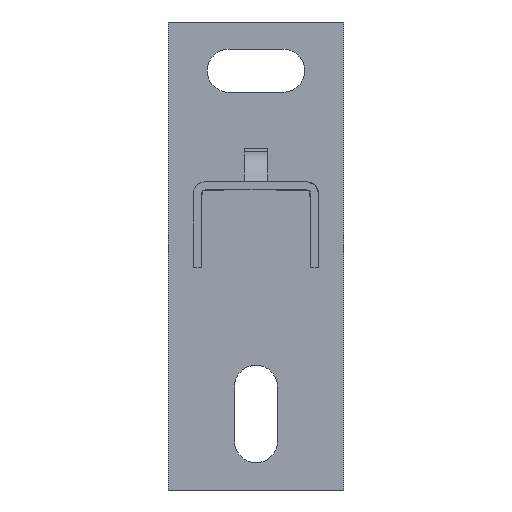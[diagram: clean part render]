
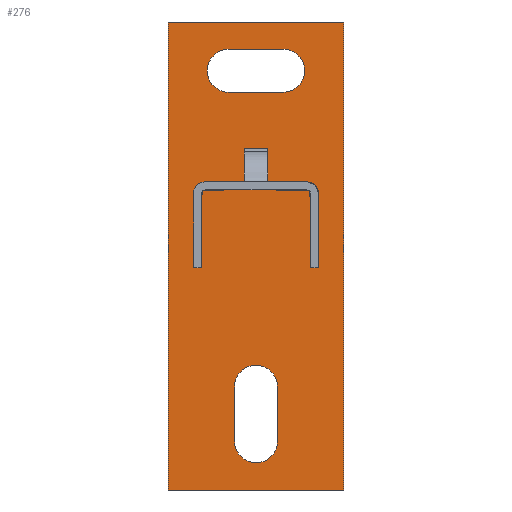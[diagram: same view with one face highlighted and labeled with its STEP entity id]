
A CAD part, front view. The second image highlights one B-rep face of the part: STEP entity #276.
In plain terms, the highlighted planar face has unit normal (0, -1, 0).
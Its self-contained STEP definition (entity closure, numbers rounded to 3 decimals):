
#206=FACE_BOUND($,#613,.T.);
#207=FACE_BOUND($,#614,.T.);
#276=ADVANCED_FACE($,(#436,#206,#207),#2404,.T.);
#436=FACE_OUTER_BOUND($,#612,.T.);
#612=EDGE_LOOP($,(#1070,#1071,#1072,#1073));
#613=EDGE_LOOP($,(#1074,#1075));
#614=EDGE_LOOP($,(#1076,#1077));
#1070=ORIENTED_EDGE($,*,*,#1730,.T.);
#1071=ORIENTED_EDGE($,*,*,#1741,.T.);
#1072=ORIENTED_EDGE($,*,*,#1740,.T.);
#1073=ORIENTED_EDGE($,*,*,#1739,.T.);
#1074=ORIENTED_EDGE($,*,*,#1731,.T.);
#1075=ORIENTED_EDGE($,*,*,#1749,.T.);
#1076=ORIENTED_EDGE($,*,*,#1732,.T.);
#1077=ORIENTED_EDGE($,*,*,#1752,.T.);
#1730=EDGE_CURVE($,#2090,#2098,#2786,.T.);
#1731=EDGE_CURVE($,#2091,#2102,#2474,.T.);
#1732=EDGE_CURVE($,#2092,#2104,#2475,.T.);
#1739=EDGE_CURVE($,#2096,#2090,#2791,.T.);
#1740=EDGE_CURVE($,#2097,#2096,#2792,.T.);
#1741=EDGE_CURVE($,#2098,#2097,#2793,.T.);
#1749=EDGE_CURVE($,#2102,#2091,#2478,.T.);
#1752=EDGE_CURVE($,#2104,#2092,#2480,.T.);
#2090=VERTEX_POINT($,#4989);
#2091=VERTEX_POINT($,#4990);
#2092=VERTEX_POINT($,#4991);
#2096=VERTEX_POINT($,#4995);
#2097=VERTEX_POINT($,#4996);
#2098=VERTEX_POINT($,#4997);
#2102=VERTEX_POINT($,#5001);
#2104=VERTEX_POINT($,#5003);
#2404=PLANE($,#2886);
#2474=(
BOUNDED_CURVE()
B_SPLINE_CURVE(2,(#4841,#4842,#4843,#4844,#4845,#4846,#4847),.UNSPECIFIED.,
.F.,.F.)
B_SPLINE_CURVE_WITH_KNOTS((3,2,2,3),(-111.115,-97.115,
-88.476,-79.836),.UNSPECIFIED.)
CURVE()
GEOMETRIC_REPRESENTATION_ITEM()
RATIONAL_B_SPLINE_CURVE((1.,1.,1.,0.707,1.,0.707,
1.))
REPRESENTATION_ITEM($)
);
#2475=(
BOUNDED_CURVE()
B_SPLINE_CURVE(2,(#4848,#4849,#4850,#4851,#4852,#4853,#4854),.UNSPECIFIED.,
.F.,.F.)
B_SPLINE_CURVE_WITH_KNOTS((3,2,2,3),(-111.115,-97.115,
-88.476,-79.836),.UNSPECIFIED.)
CURVE()
GEOMETRIC_REPRESENTATION_ITEM()
RATIONAL_B_SPLINE_CURVE((1.,1.,1.,0.707,1.,0.707,
1.))
REPRESENTATION_ITEM($)
);
#2478=(
BOUNDED_CURVE()
B_SPLINE_CURVE(2,(#4897,#4898,#4899,#4900,#4901,#4902,#4903),.UNSPECIFIED.,
.F.,.F.)
B_SPLINE_CURVE_WITH_KNOTS((3,2,2,3),(-79.836,-65.836,
-57.197,-48.558),.UNSPECIFIED.)
CURVE()
GEOMETRIC_REPRESENTATION_ITEM()
RATIONAL_B_SPLINE_CURVE((1.,1.,1.,0.707,1.,0.707,
1.))
REPRESENTATION_ITEM($)
);
#2480=(
BOUNDED_CURVE()
B_SPLINE_CURVE(2,(#4913,#4914,#4915,#4916,#4917,#4918,#4919),.UNSPECIFIED.,
.F.,.F.)
B_SPLINE_CURVE_WITH_KNOTS((3,2,2,3),(-79.836,-65.836,
-57.197,-48.558),.UNSPECIFIED.)
CURVE()
GEOMETRIC_REPRESENTATION_ITEM()
RATIONAL_B_SPLINE_CURVE((1.,1.,1.,0.707,1.,0.707,
1.))
REPRESENTATION_ITEM($)
);
#2786=B_SPLINE_CURVE_WITH_KNOTS($,1,(#4839,#4840),.UNSPECIFIED.,.F.,.F.,
(2,2),(0.,45.),.UNSPECIFIED.);
#2791=B_SPLINE_CURVE_WITH_KNOTS($,1,(#4877,#4878),.UNSPECIFIED.,.F.,.F.,
(2,2),(210.,330.),.UNSPECIFIED.);
#2792=B_SPLINE_CURVE_WITH_KNOTS($,1,(#4879,#4880),.UNSPECIFIED.,.F.,.F.,
(2,2),(165.,210.),.UNSPECIFIED.);
#2793=B_SPLINE_CURVE_WITH_KNOTS($,1,(#4881,#4882),.UNSPECIFIED.,.F.,.F.,
(2,2),(45.,165.),.UNSPECIFIED.);
#2886=AXIS2_PLACEMENT_3D($,#4927,#2900,$);
#2900=DIRECTION($,(0.,-1.,0.));
#4839=CARTESIAN_POINT($,(-22.5,0.,-120.));
#4840=CARTESIAN_POINT($,(22.5,0.,-120.));
#4841=CARTESIAN_POINT($,(-7.,0.,-7.));
#4842=CARTESIAN_POINT($,(0.,0.,-7.));
#4843=CARTESIAN_POINT($,(7.,0.,-7.));
#4844=CARTESIAN_POINT($,(12.5,0.,-7.));
#4845=CARTESIAN_POINT($,(12.5,0.,-12.5));
#4846=CARTESIAN_POINT($,(12.5,0.,-18.));
#4847=CARTESIAN_POINT($,(7.,0.,-18.));
#4848=CARTESIAN_POINT($,(5.5,0.,-93.5));
#4849=CARTESIAN_POINT($,(5.5,0.,-100.5));
#4850=CARTESIAN_POINT($,(5.5,0.,-107.5));
#4851=CARTESIAN_POINT($,(5.5,0.,-113.));
#4852=CARTESIAN_POINT($,(0.,0.,-113.));
#4853=CARTESIAN_POINT($,(-5.5,0.,-113.));
#4854=CARTESIAN_POINT($,(-5.5,0.,-107.5));
#4877=CARTESIAN_POINT($,(-22.5,0.,0.));
#4878=CARTESIAN_POINT($,(-22.5,0.,-120.));
#4879=CARTESIAN_POINT($,(22.5,0.,0.));
#4880=CARTESIAN_POINT($,(-22.5,0.,0.));
#4881=CARTESIAN_POINT($,(22.5,0.,-120.));
#4882=CARTESIAN_POINT($,(22.5,0.,0.));
#4897=CARTESIAN_POINT($,(7.,0.,-18.));
#4898=CARTESIAN_POINT($,(0.,0.,-18.));
#4899=CARTESIAN_POINT($,(-7.,0.,-18.));
#4900=CARTESIAN_POINT($,(-12.5,0.,-18.));
#4901=CARTESIAN_POINT($,(-12.5,0.,-12.5));
#4902=CARTESIAN_POINT($,(-12.5,0.,-7.));
#4903=CARTESIAN_POINT($,(-7.,0.,-7.));
#4913=CARTESIAN_POINT($,(-5.5,0.,-107.5));
#4914=CARTESIAN_POINT($,(-5.5,0.,-100.5));
#4915=CARTESIAN_POINT($,(-5.5,0.,-93.5));
#4916=CARTESIAN_POINT($,(-5.5,0.,-88.));
#4917=CARTESIAN_POINT($,(0.,0.,-88.));
#4918=CARTESIAN_POINT($,(5.5,0.,-88.));
#4919=CARTESIAN_POINT($,(5.5,0.,-93.5));
#4927=CARTESIAN_POINT($,(-22.5,0.,-120.));
#4989=CARTESIAN_POINT($,(-22.5,0.,-120.));
#4990=CARTESIAN_POINT($,(-7.,0.,-7.));
#4991=CARTESIAN_POINT($,(5.5,0.,-93.5));
#4995=CARTESIAN_POINT($,(-22.5,0.,0.));
#4996=CARTESIAN_POINT($,(22.5,0.,0.));
#4997=CARTESIAN_POINT($,(22.5,0.,-120.));
#5001=CARTESIAN_POINT($,(7.,0.,-18.));
#5003=CARTESIAN_POINT($,(-5.5,0.,-107.5));
